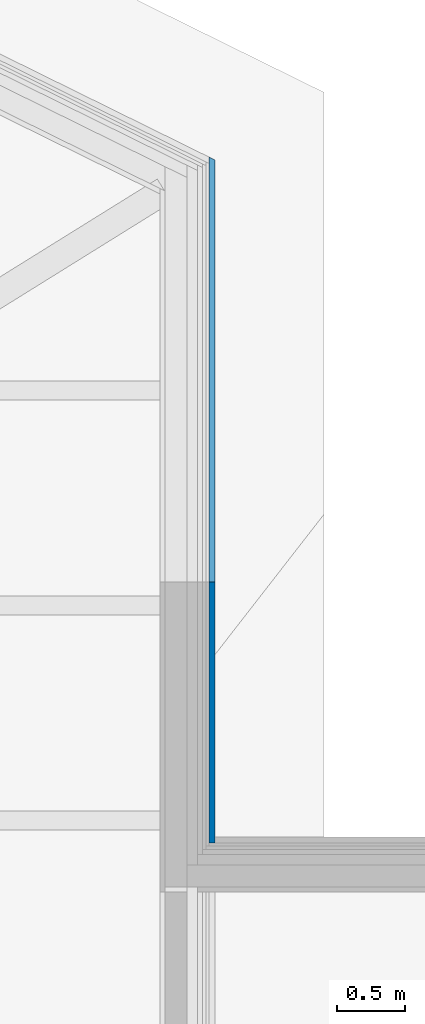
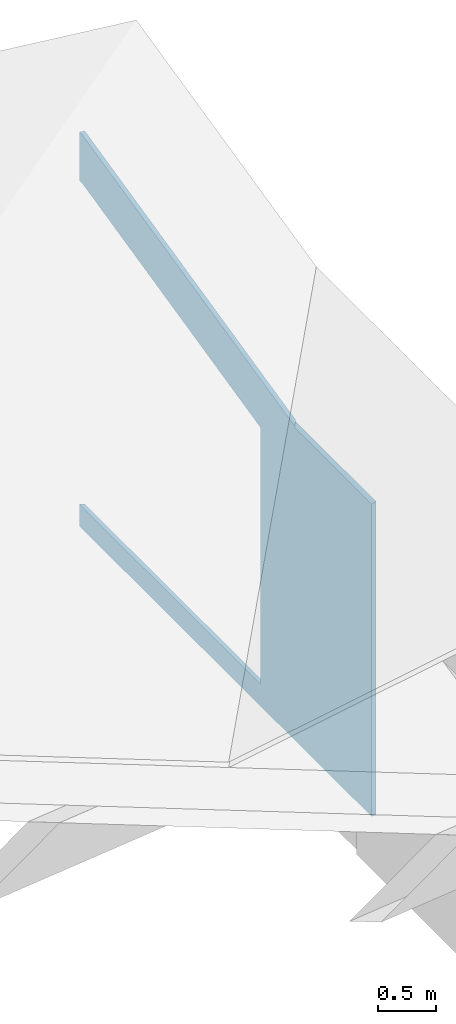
# One storey, part 8 of 14: 1 wall, 2 openings.
"""IFC4 building model written with IfcOpenShell, lengths in metres."""

from ifc_helpers import new_model, entity, si_unit, converted_unit, derived_unit, frame, origin, origin_with_axes, place, context, subcontext, project, spatial, polyline, outline, extrude, clip, bounded_halfspace, faceted_brep, material, element, save


model = new_model("IFC4")

# Units and contexts
model_context = context("Model", 3, precision=1e-05, world=origin())
body_context = subcontext(model_context, "Body", "Model", "MODEL_VIEW")
ifc_project = project(units=[si_unit("LENGTHUNIT", "METRE"), si_unit("AREAUNIT", "SQUARE_METRE"), si_unit("VOLUMEUNIT", "CUBIC_METRE"), si_unit("MASSUNIT", "GRAM", prefix="KILO"), converted_unit("PLANEANGLEUNIT", "DEGREE", entity("IfcPlaneAngleMeasure", 0.0174532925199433), si_unit("PLANEANGLEUNIT", "RADIAN"), dimensions=[0, 0, 0, 0, 0, 0, 0]), derived_unit("THERMALTRANSMITTANCEUNIT", [(si_unit("POWERUNIT", "WATT"), 1), (si_unit("THERMODYNAMICTEMPERATUREUNIT", "KELVIN"), -1), (si_unit("LENGTHUNIT", "METRE"), -2)]), derived_unit("VOLUMETRICFLOWRATEUNIT", [(si_unit("LENGTHUNIT", "METRE"), 3), (converted_unit("TIMEUNIT", "hour", entity("IfcTimeMeasure", 3600.0), si_unit("TIMEUNIT", "SECOND"), dimensions=[0, 0, 1, 0, 0, 0, 0]), -1), (si_unit("LENGTHUNIT", "METRE"), -1)])], contexts=[model_context])

# Site, building, storey
site_placement = place(None, origin())
site = spatial("IfcSite", under=ifc_project, at=site_placement, Name="Psychiatrie Neubau Wunstorf", CompositionType="ELEMENT")
building_placement = place(site_placement, origin())
building = spatial("IfcBuilding", under=site, at=building_placement, Name="Neubau H1 Sozialzentrum", CompositionType="ELEMENT")
storey_placement = place(building_placement, frame((0.0, 0.0, 4.45)))
storey = spatial("IfcBuildingStorey", under=building, at=storey_placement, Name="H1 Ebene +1", CompositionType="ELEMENT", Elevation=4.45)

# Wall, openings
ifc_material = material(Name="WA-HS")
wall_placement = place(storey_placement, frame((-4.80652529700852, 33.4891585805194, -0.100000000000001), z_axis=(0.0, 0.0, 1.0), x_axis=(0.0, -1.0, 0.0)))
wall = element("IfcWall", 1, at=wall_placement, inside=storey, material=ifc_material, context=body_context, shape_type="Clipping", body=[
    clip(clip(clip(extrude(outline(polyline([(-5.0349140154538, 0.0), (0.0, 0.0), (0.0, 0.0419999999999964), (-5.01420574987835, 0.0419999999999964), (-5.0349140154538, 0.0)])), frame((5.0349140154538, 0.0, 0.0), z_axis=(0.0, 0.0, 1.0), x_axis=(1.0, 0.0, 0.0)), (0.0, 0.0, 1.0), 4.15383742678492), bounded_halfspace(frame((1.85732410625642, 0.0209999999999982, 3.72913327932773), z_axis=(-0.222900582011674, 0.105340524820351, -0.969132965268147), x_axis=(0.516530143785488, -0.830356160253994, -0.209058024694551)), True, origin_with_axes(), polyline([(0.0207087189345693, 0.0419999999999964), (0.0468351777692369, 0.0), (3.70790431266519, 0.0), (3.65384821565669, 0.0419999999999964), (0.0207087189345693, 0.0419999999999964)]))), bounded_halfspace(frame((4.35789513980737, 0.0209999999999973, 3.2923471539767), z_axis=(-8.34621098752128e-15, 0.375157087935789, -0.926961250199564), x_axis=(-1.0, -6.58545524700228e-16, 9.2196373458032e-15)), True, origin_with_axes(), polyline([(5.0349140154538, 0.0419999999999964), (3.65384821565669, 0.0419999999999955), (3.70790431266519, 0.0), (5.0349140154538, 0.0), (5.0349140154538, 0.0419999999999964)]))), bounded_halfspace(frame((0.0225146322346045, 0.0139999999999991, 4.14672202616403), z_axis=(0.00408872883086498, 0.246538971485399, -0.969124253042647), x_axis=(0.999991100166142, 0.0, 0.0042189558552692)), True, origin_with_axes(), polyline([(0.0, 0.0), (0.0468351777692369, 0.0), (0.0207087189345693, 0.0419999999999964), (0.0, 0.0)]))),
])
opening_1_placement = place(wall_placement, frame((0.0, 0.0, 0.230000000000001)))
element("IfcOpeningElement", 2, at=opening_1_placement, cuts=wall, Name="Fensteröffnung", ObjectType="Opening", context=body_context, shape_type="Brep", body=[
    faceted_brep([(0.0, 0.0, 3.40485161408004), (0.0, 0.0, 0.0), (0.0207087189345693, 0.0419999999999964, 0.0), (0.0207087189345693, 0.0419999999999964, 3.41562198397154), (0.0468314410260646, 0.0, 3.40504766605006), (3.12070871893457, 0.0, 0.0), (3.12070871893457, 0.0, 2.69805676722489), (3.12070871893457, 0.0419999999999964, 0.0), (3.12070871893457, 0.0419999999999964, 2.7026219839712)], [[[0, 1, 2, 3]], [[4, 0, 3]], [[5, 1, 0, 4, 6]], [[2, 7, 8, 3]], [[7, 5, 6, 8]], [[8, 6, 4, 3]], [[5, 7, 2, 1]]], orient=[[False], [False], [False], [False], [False], [False], [False]]),
])
opening_2_placement = place(wall_placement, frame((0.0, 0.0, 0.230000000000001)))
element("IfcOpeningElement", 3, at=opening_2_placement, cuts=wall, Name="Fensteröffnung", ObjectType="Opening", context=body_context, shape_type="Brep", body=[
    faceted_brep([(0.0, 0.0, 3.40485161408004), (0.0, 0.0, 0.0), (0.0207087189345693, 0.0419999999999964, 0.0), (0.0207087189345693, 0.0419999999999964, 3.41562198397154), (0.0468314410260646, 0.0, 3.40504766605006), (3.12070871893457, 0.0, 0.0), (3.12070871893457, 0.0, 2.69805676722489), (3.12070871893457, 0.0419999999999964, 0.0), (3.12070871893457, 0.0419999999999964, 2.7026219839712)], [[[0, 1, 2, 3]], [[4, 0, 3]], [[5, 1, 0, 4, 6]], [[2, 7, 8, 3]], [[7, 5, 6, 8]], [[8, 6, 4, 3]], [[5, 7, 2, 1]]], orient=[[False], [False], [False], [False], [False], [False], [False]]),
])

save(model, "model.ifc")
